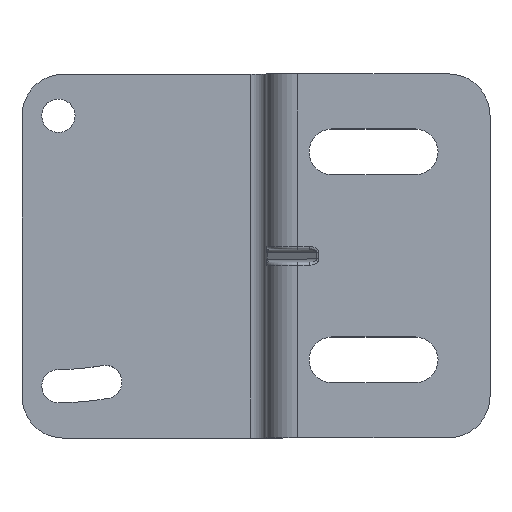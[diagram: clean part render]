
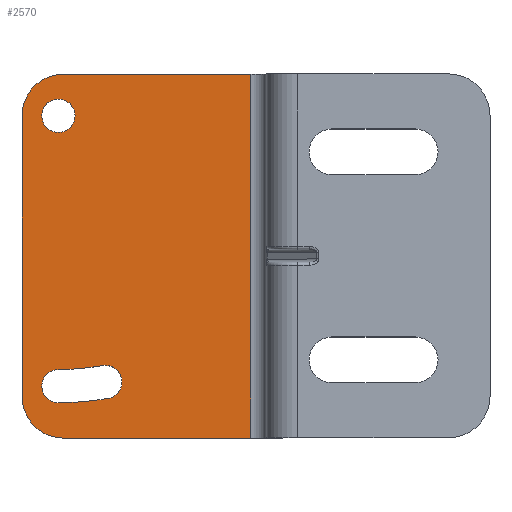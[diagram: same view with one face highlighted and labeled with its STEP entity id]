
A CAD part, top view. The second image highlights one B-rep face of the part: STEP entity #2570.
In plain terms, the highlighted planar face has unit normal (0, 0, 1).
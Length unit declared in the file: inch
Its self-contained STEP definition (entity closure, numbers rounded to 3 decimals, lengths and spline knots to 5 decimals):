
#39 = CARTESIAN_POINT ( 'NONE',  ( -1.61417, 0.68898, -0.5315 ) ) ;
#78 = DIRECTION ( 'NONE',  ( 1., 0., 0. ) ) ;
#111 = ORIENTED_EDGE ( 'NONE', *, *, #1720, .T. ) ;
#143 = CARTESIAN_POINT ( 'NONE',  ( -1.45611, -0.47657, -0.5315 ) ) ;
#148 = AXIS2_PLACEMENT_3D ( 'NONE', #1414, #748, #78 ) ;
#162 = DIRECTION ( 'NONE',  ( 0., 0., -1. ) ) ;
#163 = ORIENTED_EDGE ( 'NONE', *, *, #2417, .T. ) ;
#192 = ORIENTED_EDGE ( 'NONE', *, *, #1153, .T. ) ;
#203 = VERTEX_POINT ( 'NONE', #1651 ) ;
#224 = DIRECTION ( 'NONE',  ( 0., 0., -1. ) ) ;
#280 = CARTESIAN_POINT ( 'NONE',  ( -1.77165, -0.68898, -0.5315 ) ) ;
#293 = VERTEX_POINT ( 'NONE', #39 ) ;
#306 = CARTESIAN_POINT ( 'NONE',  ( -1.46705, -0.41454, -0.5315 ) ) ;
#330 = ORIENTED_EDGE ( 'NONE', *, *, #996, .F. ) ;
#336 = DIRECTION ( 'NONE',  ( 0., 0., -1. ) ) ;
#350 = CIRCLE ( 'NONE', #968, 0.06299 ) ;
#367 = VERTEX_POINT ( 'NONE', #1977 ) ;
#376 = EDGE_LOOP ( 'NONE', ( #2822, #1071, #2144, #2819, #1995, #2302 ) ) ;
#397 = DIRECTION ( 'NONE',  ( 1., 0., 0. ) ) ;
#402 = DIRECTION ( 'NONE',  ( 0., 0., 1. ) ) ;
#419 = CARTESIAN_POINT ( 'NONE',  ( -1.77165, 0.5315, -0.5315 ) ) ;
#450 = VERTEX_POINT ( 'NONE', #2688 ) ;
#471 = VERTEX_POINT ( 'NONE', #1180 ) ;
#478 = AXIS2_PLACEMENT_3D ( 'NONE', #1672, #402, #1910 ) ;
#549 = CARTESIAN_POINT ( 'NONE',  ( -1.69685, 0.5315, -0.5315 ) ) ;
#565 = CIRCLE ( 'NONE', #1531, 0.06299 ) ;
#573 = VERTEX_POINT ( 'NONE', #306 ) ;
#604 = CARTESIAN_POINT ( 'NONE',  ( -1.63386, 0.5315, -0.5315 ) ) ;
#605 = VERTEX_POINT ( 'NONE', #549 ) ;
#669 = CIRCLE ( 'NONE', #1236, 0.96063 ) ;
#695 = EDGE_CURVE ( 'NONE', #293, #471, #1498, .T. ) ;
#748 = DIRECTION ( 'NONE',  ( 0., 0., -1. ) ) ;
#771 = EDGE_CURVE ( 'NONE', #1003, #1788, #1567, .T. ) ;
#784 = CARTESIAN_POINT ( 'NONE',  ( -1.61417, -0.68898, -0.5315 ) ) ;
#793 = DIRECTION ( 'NONE',  ( 0., 0., 1. ) ) ;
#802 = DIRECTION ( 'NONE',  ( 0., 0., -1. ) ) ;
#832 = CARTESIAN_POINT ( 'NONE',  ( -1.63386, 0.5315, -0.5315 ) ) ;
#838 = AXIS2_PLACEMENT_3D ( 'NONE', #604, #162, #1923 ) ;
#848 = DIRECTION ( 'NONE',  ( 1., 0., 0. ) ) ;
#863 = CARTESIAN_POINT ( 'NONE',  ( -1.77165, -0.68898, -0.5315 ) ) ;
#884 = LINE ( 'NONE', #2311, #2568 ) ;
#968 = AXIS2_PLACEMENT_3D ( 'NONE', #1954, #224, #1108 ) ;
#996 = EDGE_CURVE ( 'NONE', #573, #203, #669, .T. ) ;
#1003 = VERTEX_POINT ( 'NONE', #1020 ) ;
#1010 = CIRCLE ( 'NONE', #148, 0.06299 ) ;
#1020 = CARTESIAN_POINT ( 'NONE',  ( -1.77165, -0.5315, -0.5315 ) ) ;
#1027 = CIRCLE ( 'NONE', #2826, 0.06299 ) ;
#1044 = CARTESIAN_POINT ( 'NONE',  ( -1.61417, 0.5315, -0.5315 ) ) ;
#1063 = EDGE_CURVE ( 'NONE', #367, #605, #1400, .T. ) ;
#1070 = EDGE_CURVE ( 'NONE', #450, #1481, #2080, .T. ) ;
#1071 = ORIENTED_EDGE ( 'NONE', *, *, #1692, .T. ) ;
#1089 = EDGE_LOOP ( 'NONE', ( #163, #111, #2327, #1232, #330 ) ) ;
#1108 = DIRECTION ( 'NONE',  ( 1., 0., 0. ) ) ;
#1112 = FACE_OUTER_BOUND ( 'NONE', #376, .T. ) ;
#1153 = EDGE_CURVE ( 'NONE', #605, #367, #1010, .T. ) ;
#1180 = CARTESIAN_POINT ( 'NONE',  ( -0.90551, 0.68898, -0.5315 ) ) ;
#1232 = ORIENTED_EDGE ( 'NONE', *, *, #2512, .T. ) ;
#1236 = AXIS2_PLACEMENT_3D ( 'NONE', #1644, #336, #1652 ) ;
#1242 = AXIS2_PLACEMENT_3D ( 'NONE', #1044, #793, #2778 ) ;
#1281 = DIRECTION ( 'NONE',  ( 1., 0., 0. ) ) ;
#1282 = DIRECTION ( 'NONE',  ( 0., 1., 0. ) ) ;
#1298 = DIRECTION ( 'NONE',  ( 0., 0., 1. ) ) ;
#1306 = VERTEX_POINT ( 'NONE', #784 ) ;
#1321 = EDGE_CURVE ( 'NONE', #2622, #471, #884, .T. ) ;
#1377 = EDGE_LOOP ( 'NONE', ( #2730, #192 ) ) ;
#1386 = AXIS2_PLACEMENT_3D ( 'NONE', #832, #2364, #397 ) ;
#1396 = CIRCLE ( 'NONE', #478, 0.15748 ) ;
#1400 = CIRCLE ( 'NONE', #1386, 0.06299 ) ;
#1414 = CARTESIAN_POINT ( 'NONE',  ( -1.63386, 0.5315, -0.5315 ) ) ;
#1436 = VECTOR ( 'NONE', #1282, 39.37008 ) ;
#1459 = DIRECTION ( 'NONE',  ( 1., 0., 0. ) ) ;
#1481 = VERTEX_POINT ( 'NONE', #1925 ) ;
#1498 = LINE ( 'NONE', #1960, #2578 ) ;
#1531 = AXIS2_PLACEMENT_3D ( 'NONE', #1653, #2563, #848 ) ;
#1567 = LINE ( 'NONE', #863, #1436 ) ;
#1644 = CARTESIAN_POINT ( 'NONE',  ( -1.63386, 0.5315, -0.5315 ) ) ;
#1651 = CARTESIAN_POINT ( 'NONE',  ( -1.63386, -0.42913, -0.5315 ) ) ;
#1652 = DIRECTION ( 'NONE',  ( 1., 0., 0. ) ) ;
#1653 = CARTESIAN_POINT ( 'NONE',  ( -1.63386, -0.49213, -0.5315 ) ) ;
#1672 = CARTESIAN_POINT ( 'NONE',  ( -1.61417, -0.5315, -0.5315 ) ) ;
#1692 = EDGE_CURVE ( 'NONE', #1003, #1306, #1396, .T. ) ;
#1720 = EDGE_CURVE ( 'NONE', #2388, #450, #350, .T. ) ;
#1788 = VERTEX_POINT ( 'NONE', #419 ) ;
#1801 = DIRECTION ( 'NONE',  ( 1., 0., 0. ) ) ;
#1859 = VECTOR ( 'NONE', #1801, 39.37008 ) ;
#1910 = DIRECTION ( 'NONE',  ( 1., 0., 0. ) ) ;
#1923 = DIRECTION ( 'NONE',  ( 1., 0., 0. ) ) ;
#1925 = CARTESIAN_POINT ( 'NONE',  ( -1.63386, -0.55512, -0.5315 ) ) ;
#1954 = CARTESIAN_POINT ( 'NONE',  ( -1.45611, -0.47657, -0.5315 ) ) ;
#1960 = CARTESIAN_POINT ( 'NONE',  ( -1.77165, 0.68898, -0.5315 ) ) ;
#1967 = FACE_BOUND ( 'NONE', #1377, .T. ) ;
#1977 = CARTESIAN_POINT ( 'NONE',  ( -1.57087, 0.5315, -0.5315 ) ) ;
#1995 = ORIENTED_EDGE ( 'NONE', *, *, #695, .F. ) ;
#2041 = FACE_BOUND ( 'NONE', #1089, .T. ) ;
#2080 = CIRCLE ( 'NONE', #838, 1.08661 ) ;
#2088 = DIRECTION ( 'NONE',  ( 0., 1., 0. ) ) ;
#2120 = CIRCLE ( 'NONE', #1242, 0.15748 ) ;
#2123 = AXIS2_PLACEMENT_3D ( 'NONE', #2626, #1298, #1281 ) ;
#2144 = ORIENTED_EDGE ( 'NONE', *, *, #2851, .T. ) ;
#2262 = CARTESIAN_POINT ( 'NONE',  ( -1.39312, -0.47657, -0.5315 ) ) ;
#2302 = ORIENTED_EDGE ( 'NONE', *, *, #2469, .T. ) ;
#2311 = CARTESIAN_POINT ( 'NONE',  ( -0.90551, -0.68898, -0.5315 ) ) ;
#2327 = ORIENTED_EDGE ( 'NONE', *, *, #1070, .T. ) ;
#2364 = DIRECTION ( 'NONE',  ( 0., 0., -1. ) ) ;
#2387 = PLANE ( 'NONE',  #2123 ) ;
#2388 = VERTEX_POINT ( 'NONE', #2262 ) ;
#2404 = LINE ( 'NONE', #280, #1859 ) ;
#2417 = EDGE_CURVE ( 'NONE', #573, #2388, #1027, .T. ) ;
#2469 = EDGE_CURVE ( 'NONE', #293, #1788, #2120, .T. ) ;
#2512 = EDGE_CURVE ( 'NONE', #1481, #203, #565, .T. ) ;
#2563 = DIRECTION ( 'NONE',  ( 0., 0., -1. ) ) ;
#2568 = VECTOR ( 'NONE', #2088, 39.37008 ) ;
#2570 = ADVANCED_FACE ( 'NONE', ( #1967, #2041, #1112 ), #2387, .T. ) ;
#2578 = VECTOR ( 'NONE', #2609, 39.37008 ) ;
#2609 = DIRECTION ( 'NONE',  ( 1., 0., 0. ) ) ;
#2622 = VERTEX_POINT ( 'NONE', #2852 ) ;
#2626 = CARTESIAN_POINT ( 'NONE',  ( -1.77165, -0.68898, -0.5315 ) ) ;
#2688 = CARTESIAN_POINT ( 'NONE',  ( -1.44517, -0.53861, -0.5315 ) ) ;
#2730 = ORIENTED_EDGE ( 'NONE', *, *, #1063, .T. ) ;
#2778 = DIRECTION ( 'NONE',  ( 1., 0., 0. ) ) ;
#2819 = ORIENTED_EDGE ( 'NONE', *, *, #1321, .T. ) ;
#2822 = ORIENTED_EDGE ( 'NONE', *, *, #771, .F. ) ;
#2826 = AXIS2_PLACEMENT_3D ( 'NONE', #143, #802, #1459 ) ;
#2851 = EDGE_CURVE ( 'NONE', #1306, #2622, #2404, .T. ) ;
#2852 = CARTESIAN_POINT ( 'NONE',  ( -0.90551, -0.68898, -0.5315 ) ) ;
